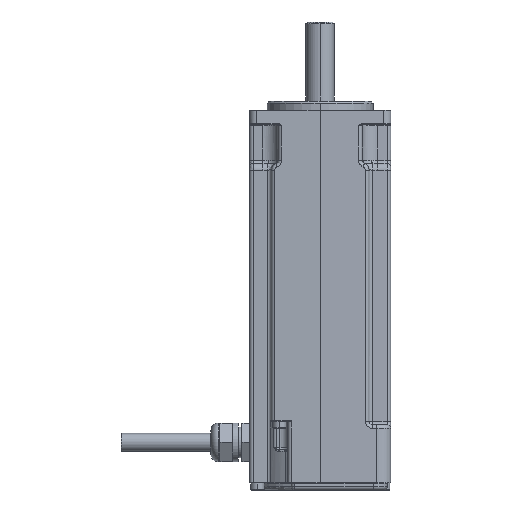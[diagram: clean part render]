
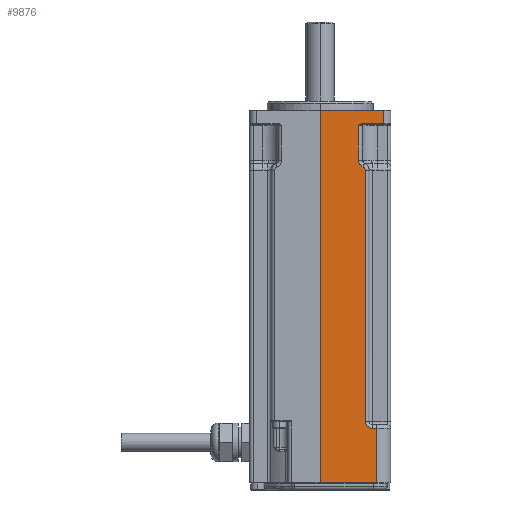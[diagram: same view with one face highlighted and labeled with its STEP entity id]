
A CAD part, left-side view. The second image highlights one B-rep face of the part: STEP entity #9876.
In plain terms, the highlighted planar face has unit normal (-1, -0.009, 0).
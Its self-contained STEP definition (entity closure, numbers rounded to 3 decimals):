
#589 = DIRECTION ( 'NONE',  ( 0., 0., 1. ) ) ;
#590 = VECTOR ( 'NONE', #589, 1000. ) ;
#591 = CARTESIAN_POINT ( 'NONE',  ( -19.905, -10.874, -4.8 ) ) ;
#592 = CARTESIAN_POINT ( 'NONE',  ( -19.905, -10.874, -14.99 ) ) ;
#593 = CARTESIAN_POINT ( 'NONE',  ( -19.905, -10.874, -15.852 ) ) ;
#594 = CARTESIAN_POINT ( 'NONE',  ( -19.901, -11.365, -16.561 ) ) ;
#595 = CARTESIAN_POINT ( 'NONE',  ( -19.894, -12.173, -16.863 ) ) ;
#596 = CARTESIAN_POINT ( 'NONE',  ( -19.905, -10.874, -14.99 ) ) ;
#597 =( BOUNDED_CURVE ( )  B_SPLINE_CURVE ( 3, ( #595, #594, #593, #592 ),
 .UNSPECIFIED., .F., .T. ) 
 B_SPLINE_CURVE_WITH_KNOTS ( ( 4, 4 ),
 ( 5.07, 6.283 ),
 .UNSPECIFIED. ) 
 CURVE ( )  GEOMETRIC_REPRESENTATION_ITEM ( )  RATIONAL_B_SPLINE_CURVE ( ( 1., 0.881, 0.881, 1. ) ) 
 REPRESENTATION_ITEM ( '' )  );
#598 = LINE ( 'NONE', #591, #590 ) ;
#611 = CARTESIAN_POINT ( 'NONE',  ( -19.888, -12.823, -17.799 ) ) ;
#612 = DIRECTION ( 'NONE',  ( 0.009, -1., 0. ) ) ;
#613 = DIRECTION ( 'NONE',  ( -1., -0.009, 0. ) ) ;
#614 = CARTESIAN_POINT ( 'NONE',  ( -20., 0., -4.8 ) ) ;
#615 = AXIS2_PLACEMENT_3D ( 'NONE', #614, #613, #612 ) ;
#616 = PLANE ( 'NONE',  #615 ) ;
#629 = FACE_OUTER_BOUND ( 'NONE', #9880, .T. ) ;
#634 = DIRECTION ( 'NONE',  ( -0.009, 1., 0. ) ) ;
#635 = VECTOR ( 'NONE', #634, 1000. ) ;
#636 = CARTESIAN_POINT ( 'NONE',  ( -19.888, -12.823, -90.955 ) ) ;
#637 = LINE ( 'NONE', #636, #635 ) ;
#675 = CARTESIAN_POINT ( 'NONE',  ( -19.843, -18.017, -0.8 ) ) ;
#688 = CARTESIAN_POINT ( 'NONE',  ( -19.896, -11.869, -4.621 ) ) ;
#689 = CARTESIAN_POINT ( 'NONE',  ( -19.898, -11.677, -4.623 ) ) ;
#690 = CARTESIAN_POINT ( 'NONE',  ( -19.9, -11.495, -4.693 ) ) ;
#701 = CARTESIAN_POINT ( 'NONE',  ( -19.888, -12.823, -88.955 ) ) ;
#702 = CARTESIAN_POINT ( 'NONE',  ( -19.888, -12.823, -90.127 ) ) ;
#703 = CARTESIAN_POINT ( 'NONE',  ( -19.881, -13.651, -90.955 ) ) ;
#704 = CARTESIAN_POINT ( 'NONE',  ( -19.871, -14.823, -90.955 ) ) ;
#705 =( BOUNDED_CURVE ( )  B_SPLINE_CURVE ( 3, ( #704, #703, #702, #701 ),
 .UNSPECIFIED., .F., .T. ) 
 B_SPLINE_CURVE_WITH_KNOTS ( ( 4, 4 ),
 ( 4.712, 6.283 ),
 .UNSPECIFIED. ) 
 CURVE ( )  GEOMETRIC_REPRESENTATION_ITEM ( )  RATIONAL_B_SPLINE_CURVE ( ( 1., 0.805, 0.805, 1. ) ) 
 REPRESENTATION_ITEM ( '' )  );
#706 = CARTESIAN_POINT ( 'NONE',  ( -19.894, -12.173, -16.863 ) ) ;
#764 = CARTESIAN_POINT ( 'NONE',  ( -19.86, -16.035, -90.955 ) ) ;
#765 = DIRECTION ( 'NONE',  ( 0.009, -1., 0. ) ) ;
#766 = VECTOR ( 'NONE', #765, 1000. ) ;
#767 = CARTESIAN_POINT ( 'NONE',  ( -19.86, -16.035, -106.3 ) ) ;
#768 = LINE ( 'NONE', #767, #766 ) ;
#832 = DIRECTION ( 'NONE',  ( 0., 0., -1. ) ) ;
#833 = VECTOR ( 'NONE', #832, 1000. ) ;
#834 = CARTESIAN_POINT ( 'NONE',  ( -19.86, -16.035, -89.955 ) ) ;
#835 = LINE ( 'NONE', #834, #833 ) ;
#855 = CARTESIAN_POINT ( 'NONE',  ( -19.86, -16.035, -106.3 ) ) ;
#856 = DIRECTION ( 'NONE',  ( 0., 0., -1. ) ) ;
#857 = VECTOR ( 'NONE', #856, 1000. ) ;
#858 = CARTESIAN_POINT ( 'NONE',  ( -20., 0., -4.8 ) ) ;
#859 = LINE ( 'NONE', #858, #857 ) ;
#860 = CARTESIAN_POINT ( 'NONE',  ( -20., 0., -106.3 ) ) ;
#872 = CARTESIAN_POINT ( 'NONE',  ( -19.888, -12.823, -88.955 ) ) ;
#873 = DIRECTION ( 'NONE',  ( 0., 0., 1. ) ) ;
#874 = VECTOR ( 'NONE', #873, 1000. ) ;
#875 = CARTESIAN_POINT ( 'NONE',  ( -19.888, -12.823, -17.799 ) ) ;
#876 = LINE ( 'NONE', #875, #874 ) ;
#878 = CARTESIAN_POINT ( 'NONE',  ( -20., 0., -0.8 ) ) ;
#883 = CARTESIAN_POINT ( 'NONE',  ( -19.905, -10.874, -5.13 ) ) ;
#884 = B_SPLINE_CURVE_WITH_KNOTS ( 'NONE', 3,
 ( #888, #887, #886, #690, #689, #688 ),
 .UNSPECIFIED., .F., .F.,
 ( 4, 2, 4 ),
 ( 0., 0.001, 0.001 ),
 .UNSPECIFIED. ) ;
#886 = CARTESIAN_POINT ( 'NONE',  ( -19.903, -11.168, -4.885 ) ) ;
#887 = CARTESIAN_POINT ( 'NONE',  ( -19.904, -11.02, -5.008 ) ) ;
#888 = CARTESIAN_POINT ( 'NONE',  ( -19.905, -10.874, -5.13 ) ) ;
#900 = CARTESIAN_POINT ( 'NONE',  ( -19.896, -11.869, -4.621 ) ) ;
#955 = CARTESIAN_POINT ( 'NONE',  ( -19.871, -14.823, -90.955 ) ) ;
#971 = LINE ( 'NONE', #980, #979 ) ;
#978 = DIRECTION ( 'NONE',  ( 0., 0., 1. ) ) ;
#979 = VECTOR ( 'NONE', #978, 1000. ) ;
#980 = CARTESIAN_POINT ( 'NONE',  ( -19.843, -18.017, -4.8 ) ) ;
#3986 = CARTESIAN_POINT ( 'NONE',  ( -19.894, -12.173, -16.863 ) ) ;
#3987 = CARTESIAN_POINT ( 'NONE',  ( -19.89, -12.577, -17.014 ) ) ;
#3988 = CARTESIAN_POINT ( 'NONE',  ( -19.888, -12.823, -17.368 ) ) ;
#3989 = CARTESIAN_POINT ( 'NONE',  ( -19.888, -12.823, -17.799 ) ) ;
#4014 =( BOUNDED_CURVE ( )  B_SPLINE_CURVE ( 3, ( #3989, #3988, #3987, #3986 ),
 .UNSPECIFIED., .F., .T. ) 
 B_SPLINE_CURVE_WITH_KNOTS ( ( 4, 4 ),
 ( 3.142, 4.354 ),
 .UNSPECIFIED. ) 
 CURVE ( )  GEOMETRIC_REPRESENTATION_ITEM ( )  RATIONAL_B_SPLINE_CURVE ( ( 1., 0.881, 0.881, 1. ) ) 
 REPRESENTATION_ITEM ( '' )  );
#4096 = CARTESIAN_POINT ( 'NONE',  ( -19.843, -18.017, -4.567 ) ) ;
#4097 = DIRECTION ( 'NONE',  ( 0.009, -1., 0.009 ) ) ;
#4098 = VECTOR ( 'NONE', #4097, 1000. ) ;
#4099 = CARTESIAN_POINT ( 'NONE',  ( -19.843, -18.015, -4.567 ) ) ;
#4100 = LINE ( 'NONE', #4099, #4098 ) ;
#4116 = DIRECTION ( 'NONE',  ( 0.009, -1., 0. ) ) ;
#4117 = VECTOR ( 'NONE', #4116, 1000. ) ;
#4118 = CARTESIAN_POINT ( 'NONE',  ( -20., 0., -0.8 ) ) ;
#4119 = LINE ( 'NONE', #4118, #4117 ) ;
#9714 = ORIENTED_EDGE ( 'NONE', *, *, #9816, .T. ) ;
#9715 = ORIENTED_EDGE ( 'NONE', *, *, #9717, .T. ) ;
#9717 = EDGE_CURVE ( 'NONE', #9812, #9718, #768, .T. ) ;
#9718 = VERTEX_POINT ( 'NONE', #855 ) ;
#9723 = ORIENTED_EDGE ( 'NONE', *, *, #9725, .F. ) ;
#9725 = EDGE_CURVE ( 'NONE', #9726, #9718, #835, .T. ) ;
#9726 = VERTEX_POINT ( 'NONE', #764 ) ;
#9812 = VERTEX_POINT ( 'NONE', #860 ) ;
#9816 = EDGE_CURVE ( 'NONE', #9819, #9812, #859, .T. ) ;
#9819 = VERTEX_POINT ( 'NONE', #878 ) ;
#9835 = EDGE_CURVE ( 'NONE', #9837, #9882, #876, .T. ) ;
#9837 = VERTEX_POINT ( 'NONE', #872 ) ;
#9870 = ORIENTED_EDGE ( 'NONE', *, *, #9872, .T. ) ;
#9872 = EDGE_CURVE ( 'NONE', #9726, #10031, #637, .T. ) ;
#9876 = ADVANCED_FACE ( 'NONE', ( #629 ), #616, .T. ) ;
#9880 = EDGE_LOOP ( 'NONE', ( #9714, #9715, #9723, #9870, #10013, #9950, #10059, #9952, #9955, #9999, #10002, #10042, #9942 ) ) ;
#9882 = VERTEX_POINT ( 'NONE', #611 ) ;
#9941 = VERTEX_POINT ( 'NONE', #675 ) ;
#9942 = ORIENTED_EDGE ( 'NONE', *, *, #10147, .F. ) ;
#9949 = EDGE_CURVE ( 'NONE', #10031, #9837, #705, .T. ) ;
#9950 = ORIENTED_EDGE ( 'NONE', *, *, #9835, .T. ) ;
#9951 = VERTEX_POINT ( 'NONE', #706 ) ;
#9952 = ORIENTED_EDGE ( 'NONE', *, *, #9953, .T. ) ;
#9953 = EDGE_CURVE ( 'NONE', #9951, #9954, #597, .T. ) ;
#9954 = VERTEX_POINT ( 'NONE', #596 ) ;
#9955 = ORIENTED_EDGE ( 'NONE', *, *, #9956, .T. ) ;
#9956 = EDGE_CURVE ( 'NONE', #9954, #9998, #598, .T. ) ;
#9998 = VERTEX_POINT ( 'NONE', #883 ) ;
#9999 = ORIENTED_EDGE ( 'NONE', *, *, #10000, .T. ) ;
#10000 = EDGE_CURVE ( 'NONE', #9998, #10001, #884, .T. ) ;
#10001 = VERTEX_POINT ( 'NONE', #900 ) ;
#10002 = ORIENTED_EDGE ( 'NONE', *, *, #10061, .T. ) ;
#10013 = ORIENTED_EDGE ( 'NONE', *, *, #9949, .T. ) ;
#10031 = VERTEX_POINT ( 'NONE', #955 ) ;
#10042 = ORIENTED_EDGE ( 'NONE', *, *, #10043, .T. ) ;
#10043 = EDGE_CURVE ( 'NONE', #10062, #9941, #971, .T. ) ;
#10059 = ORIENTED_EDGE ( 'NONE', *, *, #10060, .T. ) ;
#10060 = EDGE_CURVE ( 'NONE', #9882, #9951, #4014, .T. ) ;
#10061 = EDGE_CURVE ( 'NONE', #10001, #10062, #4100, .T. ) ;
#10062 = VERTEX_POINT ( 'NONE', #4096 ) ;
#10147 = EDGE_CURVE ( 'NONE', #9819, #9941, #4119, .T. ) ;
